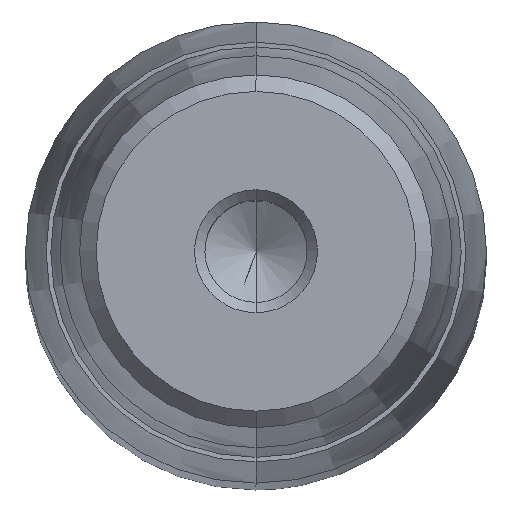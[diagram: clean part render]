
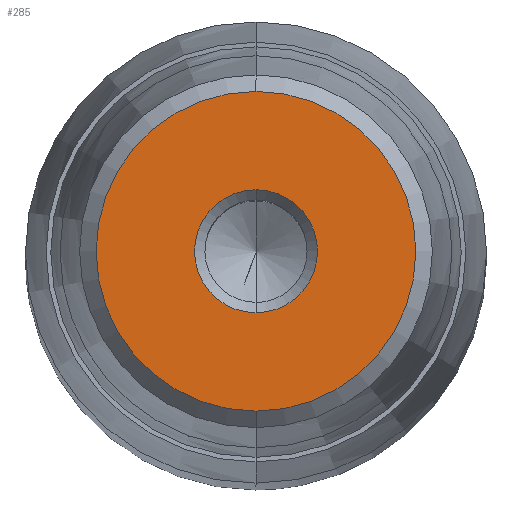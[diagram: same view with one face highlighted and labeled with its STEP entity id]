
A CAD part, top view. The second image highlights one B-rep face of the part: STEP entity #285.
In plain terms, the highlighted planar face has unit normal (0, 0, 1).
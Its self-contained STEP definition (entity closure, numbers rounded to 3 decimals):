
#164=CARTESIAN_POINT('Axis2P3D Location',(0.,0.,48.)) ;
#168=CARTESIAN_POINT('Vertex',(4.,0.,48.)) ;
#170=CARTESIAN_POINT('Vertex',(0.,-4.,48.)) ;
#173=CARTESIAN_POINT('Axis2P3D Location',(0.,0.,48.)) ;
#177=CARTESIAN_POINT('Vertex',(0.,4.,48.)) ;
#228=CARTESIAN_POINT('Axis2P3D Location',(0.,4.,48.)) ;
#233=CARTESIAN_POINT('Axis2P3D Location',(0.,0.,48.)) ;
#237=CARTESIAN_POINT('Vertex',(0.,10.4,48.)) ;
#239=CARTESIAN_POINT('Vertex',(10.4,0.,48.)) ;
#242=CARTESIAN_POINT('Axis2P3D Location',(0.,0.,48.)) ;
#246=CARTESIAN_POINT('Vertex',(-10.4,0.,48.)) ;
#249=CARTESIAN_POINT('Axis2P3D Location',(0.,0.,48.)) ;
#253=CARTESIAN_POINT('Vertex',(0.,-10.4,48.)) ;
#256=CARTESIAN_POINT('Axis2P3D Location',(0.,0.,48.)) ;
#267=CARTESIAN_POINT('Axis2P3D Location',(0.,0.,48.)) ;
#271=CARTESIAN_POINT('Vertex',(-4.,0.,48.)) ;
#274=CARTESIAN_POINT('Axis2P3D Location',(0.,0.,48.)) ;
#165=DIRECTION('Axis2P3D Direction',(-0.,0.,1.)) ;
#174=DIRECTION('Axis2P3D Direction',(-0.,0.,1.)) ;
#229=DIRECTION('Axis2P3D Direction',(0.,0.,-1.)) ;
#230=DIRECTION('Axis2P3D XDirection',(0.,1.,0.)) ;
#234=DIRECTION('Axis2P3D Direction',(0.,0.,-1.)) ;
#243=DIRECTION('Axis2P3D Direction',(0.,0.,-1.)) ;
#250=DIRECTION('Axis2P3D Direction',(0.,0.,-1.)) ;
#257=DIRECTION('Axis2P3D Direction',(0.,0.,-1.)) ;
#268=DIRECTION('Axis2P3D Direction',(0.,0.,-1.)) ;
#275=DIRECTION('Axis2P3D Direction',(0.,0.,-1.)) ;
#166=AXIS2_PLACEMENT_3D('Circle Axis2P3D',#164,#165,$) ;
#175=AXIS2_PLACEMENT_3D('Circle Axis2P3D',#173,#174,$) ;
#231=AXIS2_PLACEMENT_3D('Plane Axis2P3D',#228,#229,#230) ;
#235=AXIS2_PLACEMENT_3D('Circle Axis2P3D',#233,#234,$) ;
#244=AXIS2_PLACEMENT_3D('Circle Axis2P3D',#242,#243,$) ;
#251=AXIS2_PLACEMENT_3D('Circle Axis2P3D',#249,#250,$) ;
#258=AXIS2_PLACEMENT_3D('Circle Axis2P3D',#256,#257,$) ;
#269=AXIS2_PLACEMENT_3D('Circle Axis2P3D',#267,#268,$) ;
#276=AXIS2_PLACEMENT_3D('Circle Axis2P3D',#274,#275,$) ;
#262=ORIENTED_EDGE('',*,*,#241,.F.) ;
#263=ORIENTED_EDGE('',*,*,#248,.F.) ;
#264=ORIENTED_EDGE('',*,*,#255,.F.) ;
#265=ORIENTED_EDGE('',*,*,#260,.F.) ;
#280=ORIENTED_EDGE('',*,*,#172,.T.) ;
#281=ORIENTED_EDGE('',*,*,#273,.T.) ;
#282=ORIENTED_EDGE('',*,*,#278,.T.) ;
#283=ORIENTED_EDGE('',*,*,#179,.T.) ;
#284=FACE_BOUND('',#279,.T.) ;
#285=ADVANCED_FACE('722-30x280x313',(#266,#284),#232,.F.) ;
#167=CIRCLE('generated circle',#166,4.) ;
#176=CIRCLE('generated circle',#175,4.) ;
#236=CIRCLE('generated circle',#235,10.4) ;
#245=CIRCLE('generated circle',#244,10.4) ;
#252=CIRCLE('generated circle',#251,10.4) ;
#259=CIRCLE('generated circle',#258,10.4) ;
#270=CIRCLE('generated circle',#269,4.) ;
#277=CIRCLE('generated circle',#276,4.) ;
#172=EDGE_CURVE('',#169,#171,#167,.F.) ;
#179=EDGE_CURVE('',#178,#169,#176,.F.) ;
#241=EDGE_CURVE('',#238,#240,#236,.T.) ;
#248=EDGE_CURVE('',#247,#238,#245,.T.) ;
#255=EDGE_CURVE('',#254,#247,#252,.T.) ;
#260=EDGE_CURVE('',#240,#254,#259,.T.) ;
#273=EDGE_CURVE('',#171,#272,#270,.T.) ;
#278=EDGE_CURVE('',#272,#178,#277,.T.) ;
#261=EDGE_LOOP('',(#262,#263,#264,#265)) ;
#279=EDGE_LOOP('',(#280,#281,#282,#283)) ;
#266=FACE_OUTER_BOUND('',#261,.T.) ;
#232=PLANE('Plane',#231) ;
#169=VERTEX_POINT('',#168) ;
#171=VERTEX_POINT('',#170) ;
#178=VERTEX_POINT('',#177) ;
#238=VERTEX_POINT('',#237) ;
#240=VERTEX_POINT('',#239) ;
#247=VERTEX_POINT('',#246) ;
#254=VERTEX_POINT('',#253) ;
#272=VERTEX_POINT('',#271) ;
